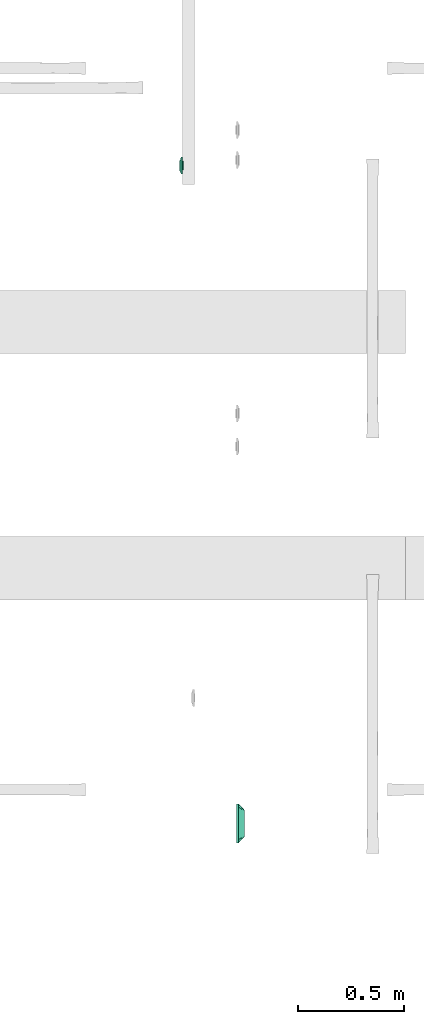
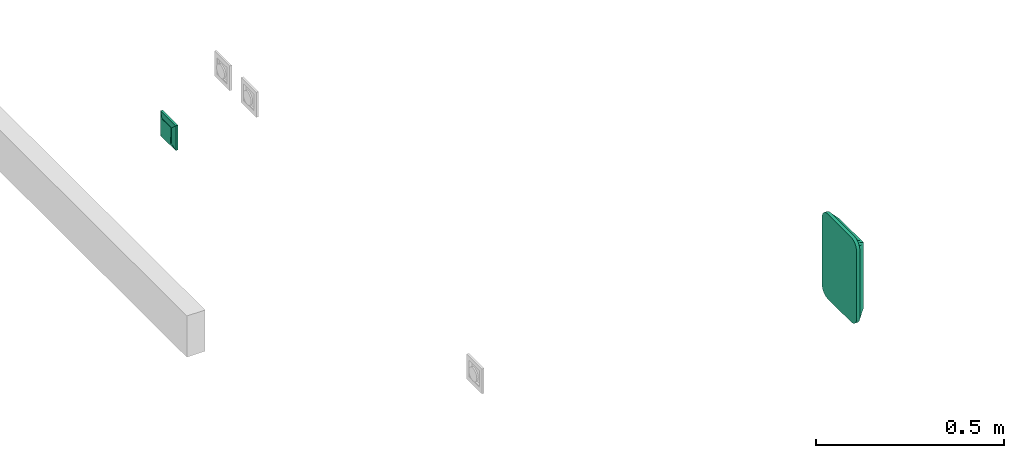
# One storey, part 128 of 153: 1 distribution control element, 1 flow terminal.
"""IFC2X3 building model written with IfcOpenShell, lengths in metres."""

import ifcopenshell
import ifcopenshell.guid

model = None  # the IFC model being written
_history = None  # IfcOwnerHistory: only IFC2X3 demands one
_inside = {}  # id of a spatial element -> (the spatial element, [elements in it])
_under = {}  # id of a project, library or spatial element -> (it, [spatial elements below it])
_declared = {}  # id of a project -> (the project, [libraries it declares])
_typed = {}  # id of a type object -> (the type object, [elements of that type])
_made_of = {}  # id of a material, layer set ... -> (it, [elements and type objects made of it])


def new_model(schema):
    """Start an empty IFC model of exactly this schema.

    Asked for "IFC4X3", IfcOpenShell would pick the latest addendum, in which some entities
    have other attributes; the version numbers below select the first issue.
    IFC2X3 requires an IfcOwnerHistory on every rooted entity: one is made here for all.
    """
    global model, _history
    if schema == "IFC4X3":
        model = ifcopenshell.file(schema_version=(4, 3, 0, 0))
    else:
        model = ifcopenshell.file(schema=schema)
    _inside.clear()
    _under.clear()
    _declared.clear()
    _typed.clear()
    _made_of.clear()
    _history = None
    if model.schema == "IFC2X3":
        org = make("IfcOrganization", Name="unknown")
        user = make(
            "IfcPersonAndOrganization",
            ThePerson=make("IfcPerson", FamilyName="unknown"),
            TheOrganization=org,
        )
        app = make(
            "IfcApplication",
            ApplicationDeveloper=org,
            Version="unknown",
            ApplicationFullName="unknown",
            ApplicationIdentifier="unknown",
        )
        _history = make(
            "IfcOwnerHistory",
            OwningUser=user,
            OwningApplication=app,
            ChangeAction="ADDED",
            CreationDate=0,
        )
    return model


def make(cls, **values):
    """One entity of the class cls with the attributes given. An attribute that is None is left unset."""
    return model.create_entity(
        cls, **{name: value for name, value in values.items() if value is not None}
    )


def entity(cls, *values):
    """Any entity or typed value of the class cls, its attributes in the order of the schema. None: left unset."""
    e = model.create_entity(cls)
    for i, value in enumerate(values):
        if value is not None:
            e[i] = value
    return e


def rooted(cls, **values):
    """An entity with a GlobalId (a new one), such as an element, a storey or a relation."""
    return make(cls, GlobalId=ifcopenshell.guid.new(), OwnerHistory=_history, **values)


def si_unit(unit_type, name, prefix=None):
    """IfcSIUnit, for example si_unit("LENGTHUNIT", "METRE", prefix="MILLI")."""
    return make("IfcSIUnit", UnitType=unit_type, Prefix=prefix, Name=name)


def converted_unit(unit_type, name, factor, base, dimensions=None, offset=None):
    """IfcConversionBasedUnit, such as the inch: factor (a typed value) times the base unit."""
    return make(
        "IfcConversionBasedUnit"
        if offset is None
        else "IfcConversionBasedUnitWithOffset",
        ConversionOffset=offset,
        Dimensions=None
        if dimensions is None
        else entity("IfcDimensionalExponents", *dimensions),
        UnitType=unit_type,
        Name=name,
        ConversionFactor=make(
            "IfcMeasureWithUnit", ValueComponent=factor, UnitComponent=base
        ),
    )


def derived_unit(unit_type, elements):
    """IfcDerivedUnit: a product of units, each with its exponent."""
    return make(
        "IfcDerivedUnit",
        Elements=[
            make("IfcDerivedUnitElement", Unit=unit, Exponent=power)
            for unit, power in elements
        ],
        UnitType=unit_type,
    )


def assignment(units):
    """IfcUnitAssignment: the units of a project."""
    return None if units is None else make("IfcUnitAssignment", Units=units)


def point(xyz):
    """IfcCartesianPoint."""
    return None if xyz is None else make("IfcCartesianPoint", Coordinates=xyz)


def direction(xyz):
    """IfcDirection."""
    return None if xyz is None else make("IfcDirection", DirectionRatios=xyz)


def frame(location, z_axis=None, x_axis=None):
    """IfcAxis2Placement3D, a coordinate frame: its origin and axes. An axis left out is left unset."""
    return make(
        "IfcAxis2Placement3D",
        Location=point(location),
        Axis=direction(z_axis),
        RefDirection=direction(x_axis),
    )


def origin():
    """The frame at (0, 0, 0) with its axes left unset."""
    return frame((0.0, 0.0, 0.0))


def place(relative_to, where):
    """IfcLocalPlacement: puts the frame where relative to a parent placement (None: the world)."""
    return make(
        "IfcLocalPlacement", PlacementRelTo=relative_to, RelativePlacement=where
    )


def context(
    kind, dimensions, precision=None, world=None, true_north=None, identifier=None
):
    """IfcGeometricRepresentationContext, for example the 3D "Model" context."""
    return make(
        "IfcGeometricRepresentationContext",
        ContextIdentifier=identifier,
        ContextType=kind,
        CoordinateSpaceDimension=dimensions,
        Precision=precision,
        WorldCoordinateSystem=world,
        TrueNorth=true_north,
    )


def subcontext(parent, identifier, kind, view, scale=None):
    """IfcGeometricRepresentationSubContext, for example "Body" below "Model"."""
    return make(
        "IfcGeometricRepresentationSubContext",
        ContextIdentifier=identifier,
        ContextType=kind,
        ParentContext=parent,
        TargetScale=scale,
        TargetView=view,
    )


def project(units=None, contexts=None):
    """IfcProject with its units and contexts."""
    return rooted(
        "IfcProject",
        Name="project",
        RepresentationContexts=contexts,
        UnitsInContext=assignment(units),
    )


def spatial(cls, under=None, at=None, **own):
    """A site, building, storey or space (cls), placed at a placement, below another one or the project."""
    s = rooted(cls, ObjectPlacement=at, **own)
    if under is not None:
        _under.setdefault(under.id(), (under, []))[1].append(s)
    return s


def faces_of(points, faces, orient=None, outer=None):
    """IfcFace entities. A face is a list of loops; a loop is a list of indices into points, from 0.

    orient and outer hold one flag for each loop. By default every Orientation is true, the
    first loop of a face is its IfcFaceOuterBound and the others are IfcFaceBound.
    """
    made = []
    for i, loops in enumerate(faces):
        bounds = []
        for j, loop in enumerate(loops):
            is_outer = j == 0 if outer is None else outer[i][j]
            bounds.append(
                make(
                    "IfcFaceOuterBound" if is_outer else "IfcFaceBound",
                    Bound=make("IfcPolyLoop", Polygon=[points[k] for k in loop]),
                    Orientation=True if orient is None else orient[i][j],
                )
            )
        made.append(make("IfcFace", Bounds=bounds))
    return made


def faceted_brep(points, faces, orient=None, outer=None, voids=None):
    """IfcFacetedBrep: a solid bounded by flat faces; with voids (closed shells), ...WithVoids."""
    shared = [point(p) for p in points]
    hull = make("IfcClosedShell", CfsFaces=faces_of(shared, faces, orient, outer))
    if voids is None:
        return make("IfcFacetedBrep", Outer=hull)
    return make(
        "IfcFacetedBrepWithVoids",
        Outer=hull,
        Voids=[
            make(cls, CfsFaces=faces_of(shared, fs, o, b)) for cls, fs, o, b in voids
        ],
    )


def shape(context_of_items, identifier, shape_type, items):
    """IfcShapeRepresentation: the items that make up one representation, for example the "Body"."""
    return make(
        "IfcShapeRepresentation",
        ContextOfItems=context_of_items,
        RepresentationIdentifier=identifier,
        RepresentationType=shape_type,
        Items=items,
    )


def source(mapping_origin, context_of_items, identifier, shape_type, items):
    """IfcRepresentationMap: a shape defined once, which mapped items show again and again."""
    return make(
        "IfcRepresentationMap",
        MappingOrigin=mapping_origin,
        MappedRepresentation=shape(context_of_items, identifier, shape_type, items),
    )


def transform(
    local_origin,
    x_axis=None,
    y_axis=None,
    z_axis=None,
    scale=None,
    scale2=None,
    scale3=None,
    uniform=True,
):
    """IfcCartesianTransformationOperator3D, or its non-uniform kind. x_axis, y_axis, z_axis: its Axis1, 2, 3."""
    if uniform:
        return make(
            "IfcCartesianTransformationOperator3D",
            Axis1=direction(x_axis),
            Axis2=direction(y_axis),
            LocalOrigin=point(local_origin),
            Scale=scale,
            Axis3=direction(z_axis),
        )
    return make(
        "IfcCartesianTransformationOperator3DnonUniform",
        Axis1=direction(x_axis),
        Axis2=direction(y_axis),
        LocalOrigin=point(local_origin),
        Scale=scale,
        Axis3=direction(z_axis),
        Scale2=scale2,
        Scale3=scale3,
    )


def mapped(mapping_source, mapping_target):
    """IfcMappedItem: shows the shape of a source again, moved by a transform."""
    return make(
        "IfcMappedItem", MappingSource=mapping_source, MappingTarget=mapping_target
    )


def material(Name=None, Category=None):
    """IfcMaterial."""
    return make("IfcMaterial", Name=Name, Category=Category)


def material_list(materials):
    """IfcMaterialList."""
    return make("IfcMaterialList", Materials=materials)


def made_of(thing, what):
    """Note that an element or type object is made of a material, layer set ...; save() writes the relation."""
    if what is not None:
        _made_of.setdefault(what.id(), (what, []))[1].append(thing)
    return thing


def type_object(cls, material=None, **own):
    """A type object (cls), such as IfcWallType, which elements share."""
    return made_of(rooted(cls, **own), material)


def type_shapes(of_type, sources):
    """Give a type object the sources (RepresentationMaps) that its elements show as mapped items."""
    of_type.RepresentationMaps = sources


def element(
    cls,
    number,
    at=None,
    inside=None,
    cuts=None,
    type_object=None,
    material=None,
    context=None,
    identifier="Body",
    shape_type=None,
    held_by="IfcProductDefinitionShape",
    body=None,
    shapes=None,
    **own,
):
    """One element of the class cls, such as IfcWall. Its Tag is "e" and its number.

    at: its placement. inside: the storey or other place that contains it. cuts: it is an
    opening in that element (IfcRelVoidsElement). A single representation is given by context,
    identifier, shape_type and body (its items); several are given by shapes. held_by: the class
    of the entity that holds the representations. save() writes the other relations.
    """
    e = rooted(cls, Tag="e%d" % number, ObjectPlacement=at, **own)
    if body is not None:
        shapes = [shape(context, identifier, shape_type, body)]
    if shapes is not None:
        e.Representation = make(held_by, Representations=shapes)
    if inside is not None:
        _inside.setdefault(inside.id(), (inside, []))[1].append(e)
    if cuts is not None:
        rooted(
            "IfcRelVoidsElement", RelatingBuildingElement=cuts, RelatedOpeningElement=e
        )
    if type_object is not None:
        _typed.setdefault(type_object.id(), (type_object, []))[1].append(e)
    return made_of(e, material)


def aggregate(whole, parts):
    """IfcRelAggregates: a whole, such as a stair, and the parts it consists of."""
    return rooted("IfcRelAggregates", RelatingObject=whole, RelatedObjects=parts)


def save(model, path):
    """Write the relations noted so far, then the file.

    IfcRelAggregates (storeys below a building ...), IfcRelContainedInSpatialStructure (elements
    in a storey), IfcRelDefinesByType, IfcRelAssociatesMaterial and IfcRelDeclares: one each for
    every whole, place, type object, material and project.
    """
    for whole, parts in _under.values():
        aggregate(whole, parts)
    for where, things in _inside.values():
        rooted(
            "IfcRelContainedInSpatialStructure",
            RelatedElements=things,
            RelatingStructure=where,
        )
    for kind, things in _typed.values():
        rooted("IfcRelDefinesByType", RelatedObjects=things, RelatingType=kind)
    for what, things in _made_of.values():
        rooted("IfcRelAssociatesMaterial", RelatedObjects=things, RelatingMaterial=what)
    for by, libraries in _declared.values():
        rooted("IfcRelDeclares", RelatingContext=by, RelatedDefinitions=libraries)
    model.write(path)


model = new_model("IFC2X3")

# Units and contexts
model_context = context("Model", 3, precision=1e-05, world=origin(), true_north=direction((6.12303176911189e-17, 1.0)))
body_context = subcontext(model_context, "Body", "Model", "MODEL_VIEW")
ifc_project = project(units=[si_unit("LENGTHUNIT", "METRE"), si_unit("AREAUNIT", "SQUARE_METRE"), si_unit("VOLUMEUNIT", "CUBIC_METRE"), converted_unit("PLANEANGLEUNIT", "DEGREE", entity("IfcRatioMeasure", 0.0174532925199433), si_unit("PLANEANGLEUNIT", "RADIAN"), dimensions=[0, 0, 0, 0, 0, 0, 0]), si_unit("MASSUNIT", "GRAM", prefix="KILO"), derived_unit("MASSDENSITYUNIT", [(si_unit("MASSUNIT", "GRAM", prefix="KILO"), 1), (si_unit("LENGTHUNIT", "METRE"), -3)]), si_unit("TIMEUNIT", "SECOND"), si_unit("FREQUENCYUNIT", "HERTZ"), si_unit("THERMODYNAMICTEMPERATUREUNIT", "DEGREE_CELSIUS"), derived_unit("THERMALTRANSMITTANCEUNIT", [(si_unit("MASSUNIT", "GRAM", prefix="KILO"), 1), (si_unit("THERMODYNAMICTEMPERATUREUNIT", "KELVIN"), -1), (si_unit("TIMEUNIT", "SECOND"), -3)]), derived_unit("VOLUMETRICFLOWRATEUNIT", [(si_unit("LENGTHUNIT", "METRE"), 3), (si_unit("TIMEUNIT", "SECOND"), -1)]), si_unit("ELECTRICCURRENTUNIT", "AMPERE"), si_unit("ELECTRICVOLTAGEUNIT", "VOLT"), si_unit("POWERUNIT", "WATT"), si_unit("FORCEUNIT", "NEWTON"), si_unit("ILLUMINANCEUNIT", "LUX"), si_unit("LUMINOUSFLUXUNIT", "LUMEN"), si_unit("LUMINOUSINTENSITYUNIT", "CANDELA"), derived_unit("USERDEFINED", [(si_unit("MASSUNIT", "GRAM", prefix="KILO"), -1), (si_unit("LENGTHUNIT", "METRE"), -2), (si_unit("TIMEUNIT", "SECOND"), 3), (si_unit("LUMINOUSFLUXUNIT", "LUMEN"), 1)]), derived_unit("LINEARVELOCITYUNIT", [(si_unit("LENGTHUNIT", "METRE"), 1), (si_unit("TIMEUNIT", "SECOND"), -1)]), si_unit("PRESSUREUNIT", "PASCAL"), derived_unit("USERDEFINED", [(si_unit("LENGTHUNIT", "METRE"), -2), (si_unit("MASSUNIT", "GRAM", prefix="KILO"), 1), (si_unit("TIMEUNIT", "SECOND"), -2)])], contexts=[model_context])

# Site, building, storey
site_placement = place(None, origin())
site = spatial("IfcSite", under=ifc_project, at=site_placement, Name="Default", CompositionType="ELEMENT")
building_placement = place(site_placement, origin())
building = spatial("IfcBuilding", under=site, at=building_placement, CompositionType="ELEMENT")
storey_placement = place(building_placement, frame((0.0, 0.0, -4.62)))
storey = spatial("IfcBuildingStorey", under=building, at=storey_placement, Name="S02", CompositionType="ELEMENT", Elevation=-4.62)

# Flow terminal
light_fixture_type = type_object("IfcLightFixtureType", Name="BP IP21", PredefinedType="NOTDEFINED")
shared_shape_1 = source(origin(), body_context, "Body", "Brep", [
    faceted_brep([(0.0, 0.0209999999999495, -0.00460000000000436), (0.00543519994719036, 0.02028444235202, -0.00460000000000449), (0.0105000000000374, 0.0181865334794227, -0.00460000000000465), (0.0148492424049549, 0.014849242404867, -0.00460000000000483), (0.0181865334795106, 0.0104999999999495, -0.00460000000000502), (0.0202844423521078, 0.00543519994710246, -0.00460000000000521), (0.0210000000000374, 0.0, -0.00460000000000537), (0.0202844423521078, -0.00543519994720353, -0.00460000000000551), (0.0181865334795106, -0.0105000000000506, -0.0046000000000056), (0.0148492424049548, -0.0148492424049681, -0.00460000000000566), (0.0105000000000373, -0.0181865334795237, -0.00460000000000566), (0.00543519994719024, -0.0202844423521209, -0.00460000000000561), (0.0, -0.0210000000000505, -0.00460000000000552), (-0.00543519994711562, -0.0202844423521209, -0.00460000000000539), (-0.0104999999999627, -0.0181865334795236, -0.00460000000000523), (-0.0148492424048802, -0.0148492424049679, -0.00460000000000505), (-0.0181865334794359, -0.0105000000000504, -0.00460000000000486), (-0.0202844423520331, -0.00543519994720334, -0.00460000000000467), (-0.0209999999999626, 0.0, -0.00460000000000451), (-0.020284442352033, 0.00543519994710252, -0.00460000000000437), (-0.0181865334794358, 0.0104999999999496, -0.00460000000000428), (-0.0148492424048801, 0.0148492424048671, -0.00460000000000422), (-0.0104999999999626, 0.0181865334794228, -0.00460000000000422), (-0.00543519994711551, 0.02028444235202, -0.00460000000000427), (-0.020284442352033, -0.00543519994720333, 0.0), (-0.0209999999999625, 0.0, 0.0), (-0.0181865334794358, -0.0105000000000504, 0.0), (-0.0104999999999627, -0.0181865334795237, 0.0), (-0.0148492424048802, -0.0148492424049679, 0.0), (-0.00543519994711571, -0.020284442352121, 0.0), (0.0, -0.0210000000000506, 0.0), (0.00543519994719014, -0.0202844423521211, 0.0), (0.0105000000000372, -0.018186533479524, 0.0), (0.0181865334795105, -0.0105000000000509, 0.0), (0.0148492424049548, -0.0148492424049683, 0.0), (0.0202844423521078, -0.00543519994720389, 0.0), (0.0210000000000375, 0.0, 0.0), (0.0202844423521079, 0.00543519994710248, 0.0), (0.0181865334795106, 0.0104999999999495, 0.0), (0.0105000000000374, 0.0181865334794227, 0.0), (0.0148492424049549, 0.014849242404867, 0.0), (0.00543519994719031, 0.0202844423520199, 0.0), (0.0, 0.0209999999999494, 0.0), (-0.00543519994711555, 0.0202844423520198, 0.0), (-0.0104999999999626, 0.0181865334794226, 0.0), (-0.0181865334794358, 0.0104999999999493, 0.0), (-0.0148492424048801, 0.0148492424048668, 0.0), (-0.020284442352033, 0.00543519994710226, 0.0)], [[[0, 1, 2, 3, 4, 5, 6, 7, 8, 9, 10, 11, 12, 13, 14, 15, 16, 17, 18, 19, 20, 21, 22, 23]], [[17, 24, 25, 18]], [[16, 26, 24, 17]], [[27, 28, 15, 14]], [[16, 15, 28, 26]], [[29, 27, 14, 13]], [[30, 29, 13, 12]], [[11, 31, 30, 12]], [[10, 32, 31, 11]], [[33, 34, 9, 8]], [[10, 9, 34, 32]], [[35, 33, 8, 7]], [[36, 35, 7, 6]], [[5, 37, 36, 6]], [[4, 38, 37, 5]], [[39, 40, 3, 2]], [[4, 3, 40, 38]], [[41, 39, 2, 1]], [[42, 41, 1, 0]], [[23, 43, 42, 0]], [[22, 44, 43, 23]], [[45, 46, 21, 20]], [[22, 21, 46, 44]], [[47, 45, 20, 19]], [[25, 47, 19, 18]], [[25, 24, 26, 28, 27, 29, 30, 31, 32, 34, 33, 35, 36, 37, 38, 40, 39, 41, 42, 43, 44, 46, 45, 47]]]),
    faceted_brep([(0.0270000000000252, 0.026999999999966, 0.0103999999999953), (-0.0269999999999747, 0.026999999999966, 0.0103999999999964), (-0.0269999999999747, -0.0270000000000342, 0.0103999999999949), (0.0270000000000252, -0.0270000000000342, 0.0103999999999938), (-0.0254999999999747, 0.0258096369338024, 0.0103999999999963), (0.0255000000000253, 0.0258096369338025, 0.0103999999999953), (0.0255000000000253, -0.0255000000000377, 0.0103999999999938), (-0.0254999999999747, -0.0255000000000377, 0.0103999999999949), (0.0270000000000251, 0.0269999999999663, 0.00199999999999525), (0.0270000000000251, -0.0270000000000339, 0.00199999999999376), (-0.0269999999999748, -0.0270000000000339, 0.00199999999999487), (-0.0269999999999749, 0.0269999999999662, 0.00199999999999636), (0.0255000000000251, 0.0258096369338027, 0.00199999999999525), (-0.0254999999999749, 0.0258096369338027, 0.0019999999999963), (-0.0254999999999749, -0.0255000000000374, 0.00199999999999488), (0.0255000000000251, -0.0255000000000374, 0.00199999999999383)], [[[0, 1, 2, 3], [4, 5, 6, 7]], [[8, 9, 10, 11], [12, 13, 14, 15]], [[1, 0, 8, 11]], [[2, 1, 11, 10]], [[3, 2, 10, 9]], [[0, 3, 9, 8]], [[12, 5, 4, 13]], [[13, 4, 7, 14]], [[14, 7, 6, 15]], [[5, 12, 15, 6]]]),
    faceted_brep([(0.0250000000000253, 0.0253096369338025, 0.00659999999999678), (0.0250000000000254, 0.0253096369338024, 0.0117095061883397), (0.0250000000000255, -0.0245000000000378, 0.0142232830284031), (0.0250000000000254, -0.0250000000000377, 0.0117095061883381), (0.0250000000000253, -0.0250000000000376, 0.00659999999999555), (-0.0249999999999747, 0.0253096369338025, 0.00659999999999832), (-0.0249999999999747, -0.0250000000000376, 0.00659999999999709), (-0.0249999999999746, -0.0250000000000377, 0.0117095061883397), (-0.0249999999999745, -0.0245000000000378, 0.0142232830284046), (-0.0249999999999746, 0.0253096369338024, 0.0117095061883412)], [[[0, 1, 2, 3, 4]], [[5, 6, 7, 8, 9]], [[1, 0, 5, 9]], [[2, 1, 9, 8]], [[3, 2, 8, 7]], [[4, 3, 7, 6]], [[0, 4, 6, 5]]]),
    faceted_brep([(0.027000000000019, 0.0269999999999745, 0.00659999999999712), (-0.0269999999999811, 0.0269999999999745, 0.00659999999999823), (-0.026999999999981, -0.0270000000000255, 0.00659999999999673), (0.027000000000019, -0.0270000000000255, 0.00659999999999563), (0.040350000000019, 0.0403499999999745, 0.00659999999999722), (0.040350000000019, -0.0403500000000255, 0.00659999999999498), (-0.0403499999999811, -0.0403500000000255, 0.00659999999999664), (-0.0403499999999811, 0.0403499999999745, 0.00659999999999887), (-0.026999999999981, 0.0269999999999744, 0.0103999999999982), (0.027000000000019, 0.0269999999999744, 0.0103999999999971), (-0.026999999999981, -0.0270000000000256, 0.0103999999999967), (0.027000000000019, -0.0270000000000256, 0.0103999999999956)], [[[0, 1, 2, 3], [4, 5, 6, 7]], [[4, 7, 8, 9]], [[7, 6, 10, 8]], [[6, 5, 11, 10]], [[5, 4, 9, 11]], [[0, 9, 8, 1]], [[1, 8, 10, 2]], [[2, 10, 11, 3]], [[9, 0, 3, 11]]], outer=[[False, True], [True], [True], [True], [True], [True], [True], [True], [True]]),
    faceted_brep([(0.040350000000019, 0.0403499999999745, 0.00659999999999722), (-0.0403499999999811, 0.0403499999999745, 0.00659999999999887), (-0.0403499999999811, -0.0403500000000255, 0.00659999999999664), (0.040350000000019, -0.0403500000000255, 0.00659999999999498), (-0.0269999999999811, 0.0269999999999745, 0.00659999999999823), (0.0270000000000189, 0.0269999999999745, 0.00659999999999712), (0.0270000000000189, -0.0270000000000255, 0.00659999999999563), (-0.0269999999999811, -0.0270000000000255, 0.00659999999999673), (0.0403500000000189, 0.0403499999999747, 0.0), (0.0403500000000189, -0.0403500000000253, 0.0), (-0.0403499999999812, -0.0403500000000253, 0.0), (-0.0403499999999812, 0.0403499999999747, 0.0), (0.0270000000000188, 0.0269999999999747, 0.0), (-0.0269999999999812, 0.0269999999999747, 0.0), (-0.0269999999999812, -0.0270000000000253, 0.0), (0.0270000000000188, -0.0270000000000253, 0.0)], [[[0, 1, 2, 3], [4, 5, 6, 7]], [[8, 9, 10, 11], [12, 13, 14, 15]], [[1, 0, 8, 11]], [[2, 1, 11, 10]], [[3, 2, 10, 9]], [[0, 3, 9, 8]], [[12, 5, 4, 13]], [[13, 4, 7, 14]], [[14, 7, 6, 15]], [[5, 12, 15, 6]]]),
])
type_shapes(light_fixture_type, [shared_shape_1])
flow_terminal_placement = place(building_placement, frame((61.3337436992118, -187.960488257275, -3.56999999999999), z_axis=(-1.0, 0.0, 0.0), x_axis=(0.0, -1.0, 0.0)))
element("IfcFlowTerminal", 1, at=flow_terminal_placement, inside=storey, type_object=light_fixture_type, Name="INT_Cmd BA:BP IP21", ObjectType="INT_Cmd BA:BP IP21", context=body_context, shape_type="MappedRepresentation", body=[
    mapped(shared_shape_1, transform((0.0, 0.0, 0.0), scale=1.0)),
])

# Distribution control element
ifc_material_1 = material(Name="Default grid")
ifc_material_2 = material(Name="White Plastic")
ifc_material_list_1 = material_list([ifc_material_1, ifc_material_2])
ifc_material_list_2 = material_list([ifc_material_1, ifc_material_2])
alarm_type = type_object("IfcAlarmType", Name="Incendie_Diffuseur sonore", PredefinedType="NOTDEFINED", material=ifc_material_list_2)
shared_shape_2 = source(origin(), body_context, "Body", "Brep", [
    faceted_brep([(0.0625000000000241, 0.107499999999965, 0.0379999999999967), (-0.0624999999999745, 0.107499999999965, 0.0379999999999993), (-0.0624999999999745, -0.107500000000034, 0.0379999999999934), (0.0625000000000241, -0.107500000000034, 0.0379999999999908), (0.0625000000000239, 0.107499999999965, 0.0279999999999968), (0.062500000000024, -0.107500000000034, 0.0279999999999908), (-0.0624999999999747, -0.107500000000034, 0.0279999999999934), (-0.0624999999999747, 0.107499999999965, 0.0279999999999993)], [[[0, 1, 2, 3]], [[4, 5, 6, 7]], [[1, 0, 4, 7]], [[2, 1, 7, 6]], [[3, 2, 6, 5]], [[0, 3, 5, 4]]]),
    faceted_brep([(0.0857355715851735, -0.125245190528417, 0.00999999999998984), (0.0829903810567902, -0.1279903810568, 0.00999999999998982), (0.0802451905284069, -0.130735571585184, 0.0099999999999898), (0.0775000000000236, -0.133480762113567, 0.00999999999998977), (0.0760711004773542, -0.133863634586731, 0.0099999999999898), (0.0746422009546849, -0.134246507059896, 0.00999999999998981), (0.0717844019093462, -0.135012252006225, 0.00999999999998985), (0.0694633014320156, -0.135634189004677, 0.00999999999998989), (0.0671422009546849, -0.136256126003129, 0.00999999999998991), (0.0625000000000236, -0.137500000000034, 0.00999999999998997), (-0.0624999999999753, -0.137500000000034, 0.00999999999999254), (-0.0648211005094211, -0.136878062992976, 0.00999999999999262), (-0.0671422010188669, -0.136256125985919, 0.00999999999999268), (-0.0717844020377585, -0.135012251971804, 0.00999999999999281), (-0.0732133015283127, -0.134629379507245, 0.00999999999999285), (-0.0746422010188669, -0.134246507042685, 0.0099999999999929), (-0.0774999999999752, -0.133480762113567, 0.00999999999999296), (-0.0802451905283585, -0.130735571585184, 0.0099999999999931), (-0.0829903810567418, -0.1279903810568, 0.00999999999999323), (-0.085735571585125, -0.125245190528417, 0.00999999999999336), (-0.0884807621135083, -0.122500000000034, 0.00999999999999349), (-0.0888636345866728, -0.121071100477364, 0.00999999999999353), (-0.0892465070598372, -0.119642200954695, 0.00999999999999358), (-0.0900122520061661, -0.116784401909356, 0.00999999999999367), (-0.0906341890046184, -0.114463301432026, 0.00999999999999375), (-0.0912561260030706, -0.112142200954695, 0.00999999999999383), (-0.0924999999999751, -0.107500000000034, 0.00999999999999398), (-0.0924999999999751, 0.107499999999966, 0.00999999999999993), (-0.0918780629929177, 0.109821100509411, 0.00999999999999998), (-0.0912561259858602, 0.112142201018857, 0.01), (-0.0900122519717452, 0.116784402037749, 0.0100000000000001), (-0.089629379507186, 0.118213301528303, 0.0100000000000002), (-0.0892465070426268, 0.119642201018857, 0.0100000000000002), (-0.0884807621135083, 0.122499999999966, 0.0100000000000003), (-0.085735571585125, 0.125245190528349, 0.0100000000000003), (-0.0829903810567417, 0.127990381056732, 0.0100000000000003), (-0.0802451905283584, 0.130735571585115, 0.0100000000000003), (-0.0774999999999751, 0.133480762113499, 0.0100000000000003), (-0.0760711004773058, 0.133863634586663, 0.0100000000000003), (-0.0746422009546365, 0.134246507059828, 0.0100000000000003), (-0.0717844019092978, 0.135012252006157, 0.0100000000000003), (-0.0694633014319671, 0.135634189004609, 0.0100000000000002), (-0.0671422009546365, 0.136256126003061, 0.0100000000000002), (-0.0624999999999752, 0.137499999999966, 0.0100000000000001), (0.0625000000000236, 0.137499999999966, 0.00999999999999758), (0.0648211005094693, 0.136878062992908, 0.00999999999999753), (0.0671422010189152, 0.136256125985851, 0.00999999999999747), (0.0717844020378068, 0.135012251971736, 0.00999999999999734), (0.073213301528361, 0.134629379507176, 0.0099999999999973), (0.0746422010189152, 0.134246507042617, 0.00999999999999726), (0.0775000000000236, 0.133480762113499, 0.00999999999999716), (0.0802451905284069, 0.130735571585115, 0.00999999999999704), (0.0829903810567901, 0.127990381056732, 0.00999999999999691), (0.0857355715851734, 0.125245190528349, 0.00999999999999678), (0.0884807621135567, 0.122499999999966, 0.00999999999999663), (0.0888636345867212, 0.121071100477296, 0.00999999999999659), (0.0892465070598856, 0.119642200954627, 0.00999999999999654), (0.0900122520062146, 0.116784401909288, 0.00999999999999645), (0.0906341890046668, 0.114463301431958, 0.00999999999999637), (0.0912561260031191, 0.112142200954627, 0.00999999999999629), (0.0925000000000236, 0.107499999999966, 0.00999999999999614), (0.0925000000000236, -0.107500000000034, 0.00999999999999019), (0.0918780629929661, -0.109821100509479, 0.00999999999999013), (0.0912561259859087, -0.112142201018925, 0.00999999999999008), (0.0900122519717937, -0.116784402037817, 0.00999999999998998), (0.0896293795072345, -0.118213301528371, 0.00999999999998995), (0.0892465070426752, -0.119642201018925, 0.00999999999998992), (0.0884807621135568, -0.122500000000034, 0.00999999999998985), (-0.0624999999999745, -0.107500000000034, 0.0379999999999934), (-0.0624999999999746, 0.107499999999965, 0.0379999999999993), (-0.066978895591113, 0.107499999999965, 0.0338196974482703), (-0.0714577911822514, 0.107499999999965, 0.0296393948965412), (-0.0759366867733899, 0.107499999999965, 0.0254590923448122), (-0.0804155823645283, 0.107499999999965, 0.0212787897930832), (-0.0864577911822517, 0.107499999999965, 0.0156393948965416), (-0.0894788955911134, 0.107499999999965, 0.0128196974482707), (-0.0864577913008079, -0.107500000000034, 0.0156393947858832), (-0.0834366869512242, -0.107500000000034, 0.0184590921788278), (-0.0804155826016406, -0.107500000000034, 0.0212787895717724), (-0.0759366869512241, -0.107500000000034, 0.0254590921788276), (-0.0714577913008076, -0.107500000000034, 0.0296393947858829), (-0.066978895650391, -0.107500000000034, 0.0338196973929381), (-0.0624999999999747, -0.116457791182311, 0.0296393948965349), (-0.0624999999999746, -0.111978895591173, 0.0338196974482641), (-0.0624999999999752, -0.134478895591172, 0.0128196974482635), (-0.0624999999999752, -0.131457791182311, 0.0156393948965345), (-0.062499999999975, -0.125415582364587, 0.0212787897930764), (-0.0624999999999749, -0.120936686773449, 0.0254590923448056), (0.0625000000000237, -0.131457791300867, 0.0156393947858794), (0.0625000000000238, -0.128436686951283, 0.0184590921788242), (0.0625000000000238, -0.1254155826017, 0.0212787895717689), (0.0625000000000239, -0.120936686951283, 0.0254590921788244), (0.062500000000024, -0.116457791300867, 0.0296393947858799), (0.0625000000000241, -0.111978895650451, 0.0338196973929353), (0.0625000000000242, -0.107500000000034, 0.0379999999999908), (0.0714577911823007, -0.107500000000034, 0.0296393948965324), (0.0669788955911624, -0.107500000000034, 0.0338196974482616), (0.089478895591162, -0.107500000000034, 0.0128196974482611), (0.0864577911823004, -0.107500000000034, 0.0156393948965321), (0.0804155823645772, -0.107500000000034, 0.0212787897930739), (0.075936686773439, -0.107500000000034, 0.0254590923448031), (0.0864577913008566, 0.107499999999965, 0.0156393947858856), (0.0834366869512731, 0.107499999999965, 0.0184590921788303), (0.0804155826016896, 0.107499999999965, 0.021278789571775), (0.0759366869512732, 0.107499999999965, 0.0254590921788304), (0.0714577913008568, 0.107499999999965, 0.0296393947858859), (0.0669788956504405, 0.107499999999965, 0.0338196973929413), (0.0625000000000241, 0.107499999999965, 0.0379999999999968), (0.062500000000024, 0.116457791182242, 0.0296393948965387), (0.062500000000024, 0.111978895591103, 0.0338196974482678), (0.0625000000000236, 0.134478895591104, 0.0128196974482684), (0.0625000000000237, 0.131457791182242, 0.0156393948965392), (0.0625000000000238, 0.125415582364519, 0.0212787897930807), (0.0625000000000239, 0.12093668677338, 0.0254590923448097), (-0.062499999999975, 0.131457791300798, 0.0156393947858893), (-0.062499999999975, 0.128436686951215, 0.0184590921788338), (-0.0624999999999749, 0.125415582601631, 0.0212787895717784), (-0.0624999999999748, 0.120936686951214, 0.0254590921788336), (-0.0624999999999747, 0.116457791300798, 0.0296393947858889), (-0.0624999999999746, 0.111978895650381, 0.0338196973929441), (0.0625000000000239, 0.107499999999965, 0.0279999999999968), (-0.0624999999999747, 0.107499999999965, 0.0279999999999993), (-0.0624999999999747, -0.107500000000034, 0.0279999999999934), (0.062500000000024, -0.107500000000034, 0.0279999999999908)], [[[0, 1, 2, 3, 4, 5, 6, 7, 8, 9, 10, 11, 12, 13, 14, 15, 16, 17, 18, 19, 20, 21, 22, 23, 24, 25, 26, 27, 28, 29, 30, 31, 32, 33, 34, 35, 36, 37, 38, 39, 40, 41, 42, 43, 44, 45, 46, 47, 48, 49, 50, 51, 52, 53, 54, 55, 56, 57, 58, 59, 60, 61, 62, 63, 64, 65, 66, 67]], [[68, 69, 70, 71, 72, 73, 74, 75, 27, 26, 76, 77, 78, 79, 80, 81]], [[80, 20, 19]], [[82, 17, 16]], [[83, 18, 17]], [[19, 18, 81]], [[20, 80, 79, 78, 77, 76, 26, 25, 24, 23, 22, 21]], [[14, 13, 12, 11, 10, 84, 85, 86, 87, 82, 16, 15]], [[18, 83, 68]], [[82, 83, 17]], [[18, 68, 81]], [[80, 19, 81]], [[9, 88, 89, 90, 91, 92, 93, 94, 68, 83, 82, 87, 86, 85, 84, 10]], [[92, 3, 2]], [[95, 0, 67]], [[96, 1, 0]], [[2, 1, 93]], [[3, 92, 91, 90, 89, 88, 9, 8, 7, 6, 5, 4]], [[65, 64, 63, 62, 61, 97, 98, 99, 100, 95, 67, 66]], [[1, 96, 94]], [[95, 96, 0]], [[1, 94, 93]], [[92, 2, 93]], [[60, 101, 102, 103, 104, 105, 106, 107, 94, 96, 95, 100, 99, 98, 97, 61]], [[105, 54, 53]], [[108, 51, 50]], [[109, 52, 51]], [[53, 52, 106]], [[54, 105, 104, 103, 102, 101, 60, 59, 58, 57, 56, 55]], [[48, 47, 46, 45, 44, 110, 111, 112, 113, 108, 50, 49]], [[52, 109, 107]], [[108, 109, 51]], [[52, 107, 106]], [[105, 53, 106]], [[69, 107, 109, 108, 113, 112, 111, 110, 44, 43, 114, 115, 116, 117, 118, 119]], [[118, 37, 36]], [[71, 34, 33]], [[70, 35, 34]], [[36, 35, 119]], [[37, 118, 117, 116, 115, 114, 43, 42, 41, 40, 39, 38]], [[31, 30, 29, 28, 27, 75, 74, 73, 72, 71, 33, 32]], [[35, 70, 69]], [[71, 70, 34]], [[35, 69, 119]], [[118, 36, 119]], [[120, 121, 122, 123]], [[120, 107, 69, 121]], [[121, 69, 68, 122]], [[122, 68, 94, 123]], [[123, 94, 107, 120]]]),
    faceted_brep([(0.0625000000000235, 0.137499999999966, 0.00999999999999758), (-0.0624999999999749, 0.137499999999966, 0.0100000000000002), (-0.0702645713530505, 0.136477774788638, 0.0100000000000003), (-0.0774999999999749, 0.133480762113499, 0.0100000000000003), (-0.0837132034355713, 0.128713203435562, 0.0100000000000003), (-0.0884807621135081, 0.122499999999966, 0.0100000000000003), (-0.0914777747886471, 0.115264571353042, 0.0100000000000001), (-0.0924999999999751, 0.107499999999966, 0.00999999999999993), (-0.0924999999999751, -0.107500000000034, 0.00999999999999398), (-0.0914777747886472, -0.115264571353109, 0.00999999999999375), (-0.0884807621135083, -0.122500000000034, 0.00999999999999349), (-0.0837132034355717, -0.12871320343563, 0.00999999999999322), (-0.0774999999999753, -0.133480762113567, 0.00999999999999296), (-0.0702645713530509, -0.136477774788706, 0.00999999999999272), (-0.0624999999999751, -0.137500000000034, 0.00999999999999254), (0.0625000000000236, -0.137500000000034, 0.00999999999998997), (0.0702645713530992, -0.136477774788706, 0.00999999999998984), (0.0775000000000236, -0.133480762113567, 0.00999999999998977), (0.08371320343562, -0.12871320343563, 0.00999999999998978), (0.0884807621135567, -0.122500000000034, 0.00999999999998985), (0.0914777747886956, -0.115264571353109, 0.00999999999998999), (0.0925000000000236, -0.107500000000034, 0.00999999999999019), (0.0925000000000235, 0.107499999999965, 0.00999999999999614), (0.0914777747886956, 0.115264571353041, 0.00999999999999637), (0.0884807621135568, 0.122499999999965, 0.00999999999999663), (0.0837132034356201, 0.128713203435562, 0.0099999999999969), (0.0775000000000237, 0.133480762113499, 0.00999999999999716), (0.0702645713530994, 0.136477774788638, 0.00999999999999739), (-0.0624999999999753, 0.137499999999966, 0.0), (0.0625000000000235, 0.137499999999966, 0.0), (0.0702645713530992, 0.136477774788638, 0.0), (0.0775000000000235, 0.133480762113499, 0.0), (0.0837132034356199, 0.128713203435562, 0.0), (0.0884807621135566, 0.122499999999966, 0.0), (0.0914777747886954, 0.115264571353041, 0.0), (0.0925000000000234, 0.107499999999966, 0.0), (0.0925000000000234, -0.107500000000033, 0.0), (0.0914777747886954, -0.115264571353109, 0.0), (0.0884807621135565, -0.122500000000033, 0.0), (0.0837132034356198, -0.12871320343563, 0.0), (0.0775000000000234, -0.133480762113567, 0.0), (0.070264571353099, -0.136477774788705, 0.0), (0.0625000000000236, -0.137500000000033, 0.0), (-0.0624999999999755, -0.137500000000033, 0.0), (-0.0702645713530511, -0.136477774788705, 0.0), (-0.0774999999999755, -0.133480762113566, 0.0), (-0.0837132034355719, -0.12871320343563, 0.0), (-0.0884807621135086, -0.122500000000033, 0.0), (-0.0914777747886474, -0.115264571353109, 0.0), (-0.0924999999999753, -0.107500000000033, 0.0), (-0.0924999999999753, 0.107499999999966, 0.0), (-0.0914777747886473, 0.115264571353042, 0.0), (-0.0884807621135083, 0.122499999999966, 0.0), (-0.0837132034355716, 0.128713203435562, 0.0), (-0.0774999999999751, 0.133480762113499, 0.0), (-0.0702645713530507, 0.136477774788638, 0.0)], [[[0, 1, 2, 3, 4, 5, 6, 7, 8, 9, 10, 11, 12, 13, 14, 15, 16, 17, 18, 19, 20, 21, 22, 23, 24, 25, 26, 27]], [[28, 29, 30, 31, 32, 33, 34, 35, 36, 37, 38, 39, 40, 41, 42, 43, 44, 45, 46, 47, 48, 49, 50, 51, 52, 53, 54, 55]], [[1, 0, 29, 28]], [[2, 1, 28, 55]], [[3, 2, 55, 54]], [[4, 3, 54, 53]], [[5, 4, 53, 52]], [[6, 5, 52, 51]], [[7, 6, 51, 50]], [[8, 7, 50, 49]], [[9, 8, 49, 48]], [[10, 9, 48, 47]], [[11, 10, 47, 46]], [[12, 11, 46, 45]], [[13, 12, 45, 44]], [[14, 13, 44, 43]], [[15, 14, 43, 42]], [[16, 15, 42, 41]], [[17, 16, 41, 40]], [[18, 17, 40, 39]], [[19, 18, 39, 38]], [[20, 19, 38, 37]], [[21, 20, 37, 36]], [[22, 21, 36, 35]], [[23, 22, 35, 34]], [[24, 23, 34, 33]], [[25, 24, 33, 32]], [[26, 25, 32, 31]], [[27, 26, 31, 30]], [[0, 27, 30, 29]]]),
])
type_shapes(alarm_type, [shared_shape_2])
distribution_control_element_placement = place(building_placement, frame((61.5897436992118, -191.07222210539, -2.21999999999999), z_axis=(1.0, 0.0, 0.0), x_axis=(0.0, 1.0, 0.0)))
element("IfcDistributionControlElement", 2, at=distribution_control_element_placement, inside=storey, type_object=alarm_type, material=ifc_material_list_1, Name="INT_DIffuseur sonore:Incendie_Diffuseur sonore", ObjectType="INT_DIffuseur sonore:Incendie_Diffuseur sonore", context=body_context, shape_type="MappedRepresentation", body=[
    mapped(shared_shape_2, transform((0.0, 0.0, 0.0), scale=1.0)),
])

save(model, "model.ifc")
